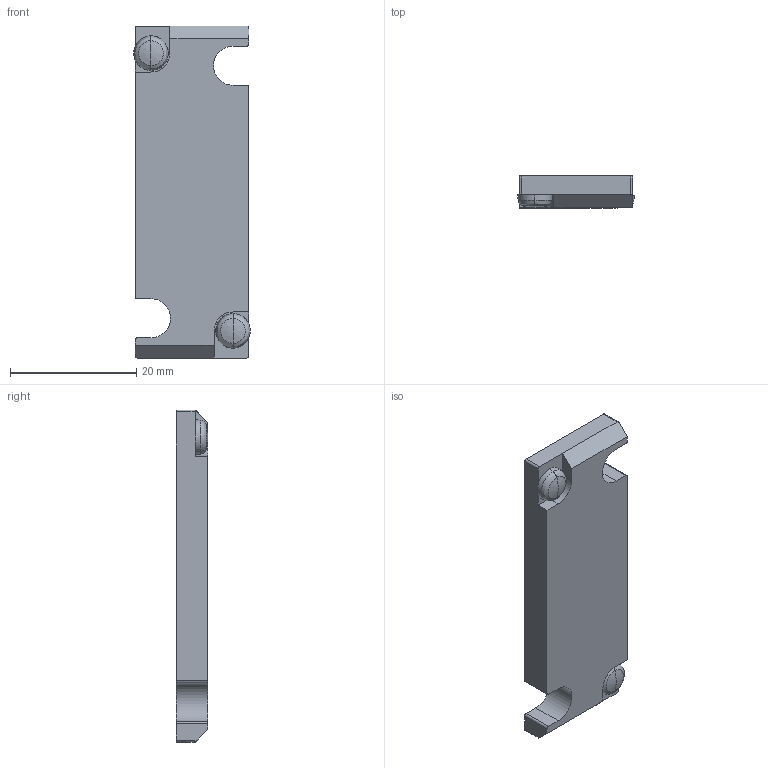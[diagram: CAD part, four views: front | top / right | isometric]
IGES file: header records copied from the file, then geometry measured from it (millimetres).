
Start section: ------------------------------------------------------------------------
Global section: file name: D:\ICADMX\tmp\trans3d_spg\CVICAD02.6676.F15_PP_16596.igs; native system: spGate; preprocessor: ver12.6.6; author: Unknown; organization: Unknown; date: 210712.184747; units: millimetre
Bounding box: 18.5 x 5 x 52.6 mm (x, y, z)
Volume: 4301.1 mm3; surface area: 2559.9 mm2
Topology: 1 solids, 1 shells, 46 faces, 124 edges, 76 vertices
Faces by surface type: bspline 46
